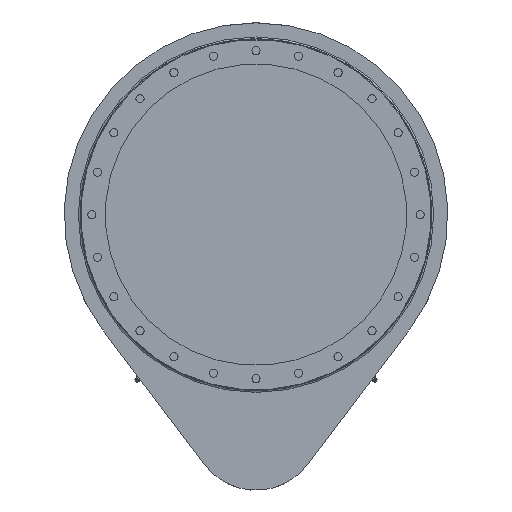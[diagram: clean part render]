
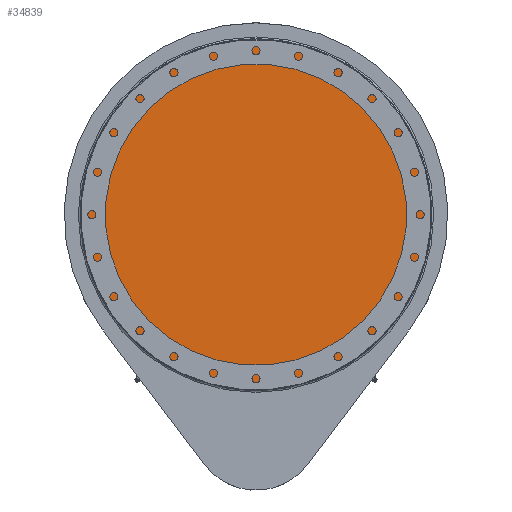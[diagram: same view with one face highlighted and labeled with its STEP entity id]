
A CAD part, top view. The second image highlights one B-rep face of the part: STEP entity #34839.
In plain terms, the highlighted planar face has unit normal (0, 0, 1).
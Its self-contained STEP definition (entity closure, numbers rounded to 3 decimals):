
#5860=CARTESIAN_POINT('',(0.,0.,100.524));
#5861=DIRECTION('',(0.,0.,-1.));
#5862=DIRECTION('',(1.,0.,0.));
#5863=AXIS2_PLACEMENT_3D('',#5860,#5861,#5862);
#5892=CARTESIAN_POINT('',(0.,0.,100.524));
#5893=DIRECTION('',(0.,0.,-1.));
#5894=DIRECTION('',(-1.,0.,0.));
#5895=AXIS2_PLACEMENT_3D('',#5892,#5893,#5894);
#5900=CARTESIAN_POINT('',(0.,0.,100.524));
#5901=DIRECTION('',(0.,0.,-1.));
#5902=DIRECTION('',(0.259,0.966,0.));
#5903=AXIS2_PLACEMENT_3D('',#5900,#5901,#5902);
#5922=CARTESIAN_POINT('',(0.,0.,100.524));
#5923=DIRECTION('',(0.,0.,-1.));
#5924=DIRECTION('',(-0.259,-0.966,0.));
#5925=AXIS2_PLACEMENT_3D('',#5922,#5923,#5924);
#28884=CARTESIAN_POINT('',(98.351,367.052,100.524));
#28885=VERTEX_POINT('',#28884);
#28886=CARTESIAN_POINT('',(-98.351,-367.052,
100.524));
#28887=VERTEX_POINT('',#28886);
#28986=CARTESIAN_POINT('',(-380.011,0.,
100.524));
#28987=VERTEX_POINT('',#28986);
#28988=CARTESIAN_POINT('',(380.011,0.,
100.524));
#28989=VERTEX_POINT('',#28988);
#34824=CARTESIAN_POINT('',(0.,0.,100.524));
#34825=DIRECTION('',(0.,0.,1.));
#34826=DIRECTION('',(0.,1.,0.));
#34827=AXIS2_PLACEMENT_3D('',#34824,#34825,#34826);
#34828=PLANE('',#34827);
#34829=ORIENTED_EDGE('',*,*,#34812,.T.);
#34830=ORIENTED_EDGE('',*,*,#34789,.T.);
#34831=EDGE_LOOP('',(#34829,#34830));
#34832=FACE_OUTER_BOUND('',#34831,.F.);
#34834=ORIENTED_EDGE('',*,*,#34833,.F.);
#34836=ORIENTED_EDGE('',*,*,#34835,.F.);
#34837=EDGE_LOOP('',(#34834,#34836));
#34838=FACE_BOUND('',#34837,.F.);
#5864=CIRCLE('',#5863,380.011);
#5896=CIRCLE('',#5895,380.011);
#5904=CIRCLE('',#5903,380.);
#5926=CIRCLE('',#5925,380.);
#34789=EDGE_CURVE('',#28989,#28987,#5864,.T.);
#34812=EDGE_CURVE('',#28987,#28989,#5896,.T.);
#34833=EDGE_CURVE('',#28885,#28887,#5904,.T.);
#34835=EDGE_CURVE('',#28887,#28885,#5926,.T.);
#34839=ADVANCED_FACE('',(#34832,#34838),#34828,.T.);
